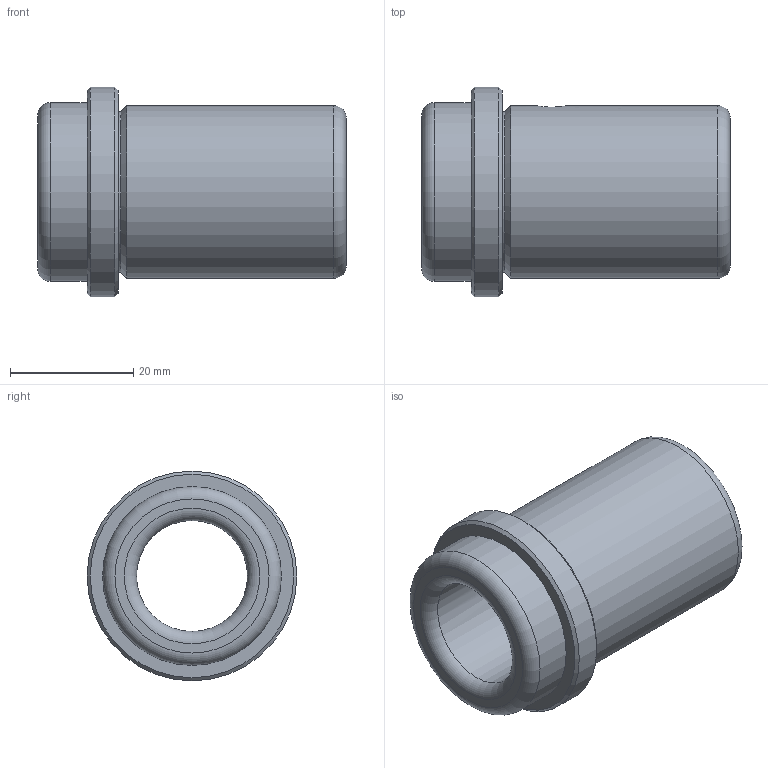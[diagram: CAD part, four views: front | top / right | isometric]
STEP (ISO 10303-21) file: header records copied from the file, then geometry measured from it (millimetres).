
FILE_DESCRIPTION( ( 'STEP AP214' ), '1' );
FILE_NAME( 'p:/temp/worker_1045/temp/exporttempdir_3832_519_l0CO0/format_1/WZ - 4032 18 x 50.stp', '2020-12-03T19:41:08', ( 'License CC BY-ND 4.0' ), ( 'CADENAS' ), ' ', 'PARTsolutions', ' ' );
FILE_SCHEMA( ( 'AUTOMOTIVE_DESIGN { 1 0 10303 214 1 1 1 1 }' ) );
Length unit declared in the file: millimetre
Products named in the file (1): _WZ - 4032 18 x 50
Bounding box: 50 x 34 x 34 mm (x, y, z)
Volume: 19260.8 mm3; surface area: 8612.6 mm2
Topology: 1 solids, 1 shells, 19 faces, 34 edges, 20 vertices
Faces by surface type: cylinder 6, plane 5, torus 4, cone 4
Full cylindrical faces by diameter (mm): 5 x1, 18 x1, 26 x1, 28 x1, 29 x1, 34 x1
Entity records: 680 total; most frequent: CARTESIAN_POINT 176, DIRECTION 76, EDGE_LOOP 40, ORIENTED_EDGE 40, AXIS2_PLACEMENT_3D 38, FACE_OUTER_BOUND 29, EDGE_CURVE 20, VERTEX_POINT 20
